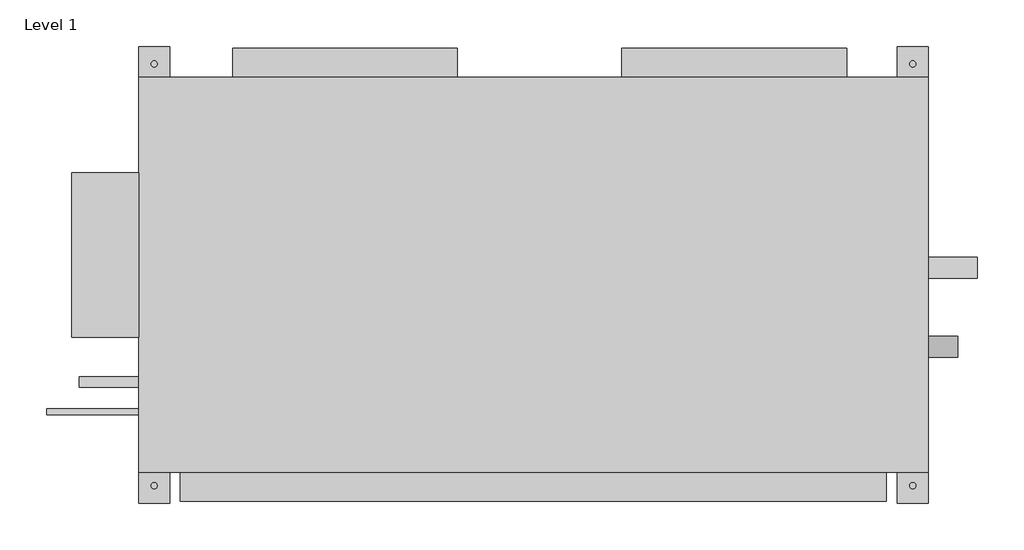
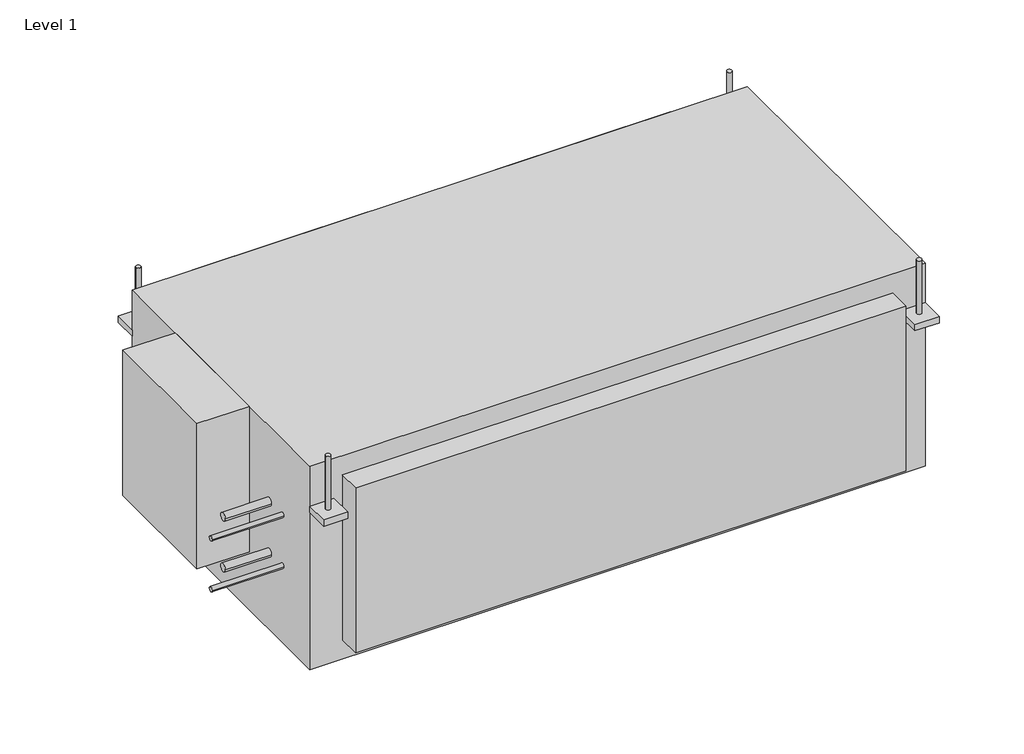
# One storey: 1 proxy.
"""IFC4 building model written with IfcOpenShell, lengths in millimetres."""

import ifcopenshell
import ifcopenshell.guid

model = None  # the IFC model being written
_history = None  # IfcOwnerHistory: only IFC2X3 demands one
_inside = {}  # id of a spatial element -> (the spatial element, [elements in it])
_under = {}  # id of a project, library or spatial element -> (it, [spatial elements below it])
_declared = {}  # id of a project -> (the project, [libraries it declares])
_typed = {}  # id of a type object -> (the type object, [elements of that type])
_made_of = {}  # id of a material, layer set ... -> (it, [elements and type objects made of it])


def new_model(schema):
    """Start an empty IFC model of exactly this schema.

    Asked for "IFC4X3", IfcOpenShell would pick the latest addendum, in which some entities
    have other attributes; the version numbers below select the first issue.
    IFC2X3 requires an IfcOwnerHistory on every rooted entity: one is made here for all.
    """
    global model, _history
    if schema == "IFC4X3":
        model = ifcopenshell.file(schema_version=(4, 3, 0, 0))
    else:
        model = ifcopenshell.file(schema=schema)
    _inside.clear()
    _under.clear()
    _declared.clear()
    _typed.clear()
    _made_of.clear()
    _history = None
    if model.schema == "IFC2X3":
        org = make("IfcOrganization", Name="unknown")
        user = make(
            "IfcPersonAndOrganization",
            ThePerson=make("IfcPerson", FamilyName="unknown"),
            TheOrganization=org,
        )
        app = make(
            "IfcApplication",
            ApplicationDeveloper=org,
            Version="unknown",
            ApplicationFullName="unknown",
            ApplicationIdentifier="unknown",
        )
        _history = make(
            "IfcOwnerHistory",
            OwningUser=user,
            OwningApplication=app,
            ChangeAction="ADDED",
            CreationDate=0,
        )
    return model


def make(cls, **values):
    """One entity of the class cls with the attributes given. An attribute that is None is left unset."""
    return model.create_entity(
        cls, **{name: value for name, value in values.items() if value is not None}
    )


def rooted(cls, **values):
    """An entity with a GlobalId (a new one), such as an element, a storey or a relation."""
    return make(cls, GlobalId=ifcopenshell.guid.new(), OwnerHistory=_history, **values)


def si_unit(unit_type, name, prefix=None):
    """IfcSIUnit, for example si_unit("LENGTHUNIT", "METRE", prefix="MILLI")."""
    return make("IfcSIUnit", UnitType=unit_type, Prefix=prefix, Name=name)


def assignment(units):
    """IfcUnitAssignment: the units of a project."""
    return None if units is None else make("IfcUnitAssignment", Units=units)


def point(xyz):
    """IfcCartesianPoint."""
    return None if xyz is None else make("IfcCartesianPoint", Coordinates=xyz)


def direction(xyz):
    """IfcDirection."""
    return None if xyz is None else make("IfcDirection", DirectionRatios=xyz)


def frame(location, z_axis=None, x_axis=None):
    """IfcAxis2Placement3D, a coordinate frame: its origin and axes. An axis left out is left unset."""
    return make(
        "IfcAxis2Placement3D",
        Location=point(location),
        Axis=direction(z_axis),
        RefDirection=direction(x_axis),
    )


def frame_2d(location, x_axis=None):
    """IfcAxis2Placement2D, a coordinate frame in the plane: its origin and x axis."""
    return make(
        "IfcAxis2Placement2D", Location=point(location), RefDirection=direction(x_axis)
    )


def origin():
    """The frame at (0, 0, 0) with its axes left unset."""
    return frame((0.0, 0.0, 0.0))


def origin_with_axes():
    """The frame at (0, 0, 0) with the z axis (0, 0, 1) and the x axis (1, 0, 0) written out."""
    return frame((0.0, 0.0, 0.0), z_axis=(0.0, 0.0, 1.0), x_axis=(1.0, 0.0, 0.0))


def place(relative_to, where):
    """IfcLocalPlacement: puts the frame where relative to a parent placement (None: the world)."""
    return make(
        "IfcLocalPlacement", PlacementRelTo=relative_to, RelativePlacement=where
    )


def context(
    kind, dimensions, precision=None, world=None, true_north=None, identifier=None
):
    """IfcGeometricRepresentationContext, for example the 3D "Model" context."""
    return make(
        "IfcGeometricRepresentationContext",
        ContextIdentifier=identifier,
        ContextType=kind,
        CoordinateSpaceDimension=dimensions,
        Precision=precision,
        WorldCoordinateSystem=world,
        TrueNorth=true_north,
    )


def project(units=None, contexts=None):
    """IfcProject with its units and contexts."""
    return rooted(
        "IfcProject",
        Name="project",
        RepresentationContexts=contexts,
        UnitsInContext=assignment(units),
    )


def spatial(cls, under=None, at=None, **own):
    """A site, building, storey or space (cls), placed at a placement, below another one or the project."""
    s = rooted(cls, ObjectPlacement=at, **own)
    if under is not None:
        _under.setdefault(under.id(), (under, []))[1].append(s)
    return s


def polyline(points):
    """IfcPolyline through the points."""
    return make("IfcPolyline", Points=[point(p) for p in points])


def circle_curve(where, radius):
    """IfcCircle in the frame where."""
    return make("IfcCircle", Position=where, Radius=radius)


def trimmed(basis, trim1, trim2, sense, master):
    """IfcTrimmedCurve: the piece of a basis curve between two trims."""
    return make(
        "IfcTrimmedCurve",
        BasisCurve=basis,
        Trim1=trim1,
        Trim2=trim2,
        SenseAgreement=sense,
        MasterRepresentation=master,
    )


def segment(curve, same_sense, transition):
    """IfcCompositeCurveSegment."""
    return make(
        "IfcCompositeCurveSegment",
        Transition=transition,
        SameSense=same_sense,
        ParentCurve=curve,
    )


def composite_curve(segments, self_intersect=None):
    """IfcCompositeCurve: segments joined end to end."""
    return make("IfcCompositeCurve", Segments=segments, SelfIntersect=self_intersect)


def outline(outer, holes=None, kind="AREA"):
    """IfcArbitraryClosedProfileDef: a profile drawn as a closed curve; with holes, ...WithVoids."""
    if holes is None:
        return make("IfcArbitraryClosedProfileDef", ProfileType=kind, OuterCurve=outer)
    return make(
        "IfcArbitraryProfileDefWithVoids",
        ProfileType=kind,
        OuterCurve=outer,
        InnerCurves=holes,
    )


def extrude(swept, where, along, depth):
    """IfcExtrudedAreaSolid: the profile swept, set in the frame where, extruded along a direction by depth."""
    return make(
        "IfcExtrudedAreaSolid",
        SweptArea=swept,
        Position=where,
        ExtrudedDirection=direction(along),
        Depth=depth,
    )


def shape(context_of_items, identifier, shape_type, items):
    """IfcShapeRepresentation: the items that make up one representation, for example the "Body"."""
    return make(
        "IfcShapeRepresentation",
        ContextOfItems=context_of_items,
        RepresentationIdentifier=identifier,
        RepresentationType=shape_type,
        Items=items,
    )


def source(mapping_origin, context_of_items, identifier, shape_type, items):
    """IfcRepresentationMap: a shape defined once, which mapped items show again and again."""
    return make(
        "IfcRepresentationMap",
        MappingOrigin=mapping_origin,
        MappedRepresentation=shape(context_of_items, identifier, shape_type, items),
    )


def transform(
    local_origin,
    x_axis=None,
    y_axis=None,
    z_axis=None,
    scale=None,
    scale2=None,
    scale3=None,
    uniform=True,
):
    """IfcCartesianTransformationOperator3D, or its non-uniform kind. x_axis, y_axis, z_axis: its Axis1, 2, 3."""
    if uniform:
        return make(
            "IfcCartesianTransformationOperator3D",
            Axis1=direction(x_axis),
            Axis2=direction(y_axis),
            LocalOrigin=point(local_origin),
            Scale=scale,
            Axis3=direction(z_axis),
        )
    return make(
        "IfcCartesianTransformationOperator3DnonUniform",
        Axis1=direction(x_axis),
        Axis2=direction(y_axis),
        LocalOrigin=point(local_origin),
        Scale=scale,
        Axis3=direction(z_axis),
        Scale2=scale2,
        Scale3=scale3,
    )


def mapped(mapping_source, mapping_target):
    """IfcMappedItem: shows the shape of a source again, moved by a transform."""
    return make(
        "IfcMappedItem", MappingSource=mapping_source, MappingTarget=mapping_target
    )


def made_of(thing, what):
    """Note that an element or type object is made of a material, layer set ...; save() writes the relation."""
    if what is not None:
        _made_of.setdefault(what.id(), (what, []))[1].append(thing)
    return thing


def element(
    cls,
    number,
    at=None,
    inside=None,
    cuts=None,
    type_object=None,
    material=None,
    context=None,
    identifier="Body",
    shape_type=None,
    held_by="IfcProductDefinitionShape",
    body=None,
    shapes=None,
    **own,
):
    """One element of the class cls, such as IfcWall. Its Tag is "e" and its number.

    at: its placement. inside: the storey or other place that contains it. cuts: it is an
    opening in that element (IfcRelVoidsElement). A single representation is given by context,
    identifier, shape_type and body (its items); several are given by shapes. held_by: the class
    of the entity that holds the representations. save() writes the other relations.
    """
    e = rooted(cls, Tag="e%d" % number, ObjectPlacement=at, **own)
    if body is not None:
        shapes = [shape(context, identifier, shape_type, body)]
    if shapes is not None:
        e.Representation = make(held_by, Representations=shapes)
    if inside is not None:
        _inside.setdefault(inside.id(), (inside, []))[1].append(e)
    if cuts is not None:
        rooted(
            "IfcRelVoidsElement", RelatingBuildingElement=cuts, RelatedOpeningElement=e
        )
    if type_object is not None:
        _typed.setdefault(type_object.id(), (type_object, []))[1].append(e)
    return made_of(e, material)


def aggregate(whole, parts):
    """IfcRelAggregates: a whole, such as a stair, and the parts it consists of."""
    return rooted("IfcRelAggregates", RelatingObject=whole, RelatedObjects=parts)


def save(model, path):
    """Write the relations noted so far, then the file.

    IfcRelAggregates (storeys below a building ...), IfcRelContainedInSpatialStructure (elements
    in a storey), IfcRelDefinesByType, IfcRelAssociatesMaterial and IfcRelDeclares: one each for
    every whole, place, type object, material and project.
    """
    for whole, parts in _under.values():
        aggregate(whole, parts)
    for where, things in _inside.values():
        rooted(
            "IfcRelContainedInSpatialStructure",
            RelatedElements=things,
            RelatingStructure=where,
        )
    for kind, things in _typed.values():
        rooted("IfcRelDefinesByType", RelatedObjects=things, RelatingType=kind)
    for what, things in _made_of.values():
        rooted("IfcRelAssociatesMaterial", RelatedObjects=things, RelatingMaterial=what)
    for by, libraries in _declared.values():
        rooted("IfcRelDeclares", RelatingContext=by, RelatedDefinitions=libraries)
    model.write(path)


def plane_surface(at):
    """IfcPlane: the flat surface through the origin of the frame at, square to its z axis."""
    return make("IfcPlane", Position=at)


def cylinder_surface(at, radius):
    """IfcCylindricalSurface: all points at the distance radius from the z axis of the frame at."""
    return make("IfcCylindricalSurface", Position=at, Radius=radius)


def advanced_brep(points, edges, surfaces, faces):
    """IfcAdvancedBrep: a solid bounded by faces that lie on surfaces and meet in shared edges.

    An edge is (start, end): straight between two places in points (the first is 0);
    or (start, end, curve); or (start, end, curve, False) where it runs against its curve.
    A face is (place in surfaces, loops), or (place, loops, False) where it looks against
    its surface's normal. A loop lists edges by number (the first is 1), with a minus sign
    where the edge is run from its end to its start. The first loop is the outer one.
    """
    corners = [point(p) for p in points]
    vertices = [make("IfcVertexPoint", VertexGeometry=c) for c in corners]
    made = []
    for start, end, *more in edges:
        made.append(
            make(
                "IfcEdgeCurve",
                EdgeStart=vertices[start],
                EdgeEnd=vertices[end],
                EdgeGeometry=more[0] if more else make("IfcPolyline", Points=[corners[start], corners[end]]),
                SameSense=more[1] if len(more) > 1 else True,
            )
        )
    hull = []
    for where, loops, *sense in faces:
        bounds = []
        for j, loop in enumerate(loops):
            ring = [make("IfcOrientedEdge", EdgeElement=made[abs(k) - 1], Orientation=k > 0) for k in loop]
            bounds.append(
                make(
                    "IfcFaceOuterBound" if j == 0 else "IfcFaceBound",
                    Bound=make("IfcEdgeLoop", EdgeList=ring),
                    Orientation=True,
                )
            )
        hull.append(make("IfcAdvancedFace", Bounds=bounds, FaceSurface=surfaces[where], SameSense=sense[0] if sense else True))
    return make("IfcAdvancedBrep", Outer=make("IfcClosedShell", CfsFaces=hull))


def proxy_48000_btu_h_a64f102a(model_context):
    return source(origin(), model_context, "Body", "SolidModel", [
        advanced_brep(
        [(696.0, -124.875, 44.0), (696.0, -93.125, 44.0), (696.0, -109.0, 44.0), (651.0, -124.875, 44.0), (651.0, -93.125, 44.0), (651.0, -109.0, 44.0)],
        [
            (0, 1, circle_curve(frame((696.0, -109.0, 44.0), z_axis=(1.0, 0.0, 0.0), x_axis=(0.0, 1.0, 0.0)), 15.875)),
            (1, 2),
            (2, 0),
            (1, 0, circle_curve(frame((696.0, -109.0, 44.0), z_axis=(1.0, 0.0, 0.0), x_axis=(0.0, 1.0, 0.0)), 15.875)),
            (3, 4, circle_curve(frame((651.0, -109.0, 44.0), z_axis=(1.0, 0.0, 0.0), x_axis=(0.0, 1.0, 0.0)), 15.875)),
            (4, 1),
            (0, 3),
            (4, 3, circle_curve(frame((651.0, -109.0, 44.0), z_axis=(1.0, 0.0, 0.0), x_axis=(0.0, 1.0, 0.0)), 15.875)),
            (5, 4),
            (3, 5),
        ],
        [
            plane_surface(frame((696.0, -109.0, 44.0), z_axis=(1.0, 0.0, 0.0), x_axis=(0.0, 1.0, 0.0))),
            cylinder_surface(frame((651.0, -109.0, 44.0), z_axis=(-1.0, 0.0, 0.0), x_axis=(0.0, 1.0, 0.0)), 15.875),
            plane_surface(frame((651.0, -109.0, 44.0), z_axis=(-1.0, 0.0, 0.0), x_axis=(0.0, 1.0, 0.0))),
        ],
        [
            (0, [[1, 2, 3]]),
            (0, [[4, -3, -2]]),
            (1, [[5, 6, -1, 7]]),
            (1, [[8, -7, -4, -6]]),
            (2, [[9, -5, 10]]),
            (2, [[-10, -8, -9]]),
        ],
    ),
        advanced_brep(
        [(651.0, 26.875, 25.0), (651.0, -4.875, 25.0), (651.0, 11.0, 25.0), (726.0, 26.875, 25.0), (726.0, -4.875, 25.0), (726.0, 11.0, 25.0)],
        [
            (0, 1, circle_curve(frame((651.0, 11.0, 25.0), z_axis=(-1.0, 0.0, 0.0), x_axis=(0.0, -1.0, 0.0)), 15.875)),
            (1, 2),
            (2, 0),
            (1, 0, circle_curve(frame((651.0, 11.0, 25.0), z_axis=(-1.0, 0.0, 0.0), x_axis=(0.0, -1.0, 0.0)), 15.875)),
            (3, 4, circle_curve(frame((726.0, 11.0, 25.0), z_axis=(-1.0, 0.0, 0.0), x_axis=(0.0, -1.0, 0.0)), 15.875)),
            (4, 1),
            (0, 3),
            (4, 3, circle_curve(frame((726.0, 11.0, 25.0), z_axis=(-1.0, 0.0, 0.0), x_axis=(0.0, -1.0, 0.0)), 15.875)),
            (5, 4),
            (3, 5),
        ],
        [
            plane_surface(frame((651.0, 11.0, 25.0), z_axis=(-1.0, 0.0, 0.0), x_axis=(0.0, -1.0, 0.0))),
            cylinder_surface(frame((1602.890044, 11.0, 25.0), z_axis=(1.0, 0.0, 0.0), x_axis=(0.0, -1.0, 0.0)), 15.875),
            plane_surface(frame((726.0, 11.0, 25.0), z_axis=(1.0, 0.0, 0.0), x_axis=(0.0, -1.0, 0.0))),
        ],
        [
            (0, [[1, 2, 3]]),
            (0, [[4, -3, -2]]),
            (1, [[5, 6, -1, 7]]),
            (1, [[8, -7, -4, -6]]),
            (2, [[9, -5, 10]]),
            (2, [[-10, -8, -9]]),
        ],
    ),
        extrude(outline(composite_curve([segment(trimmed(circle_curve(frame_2d((-163.0, 159.0)), 7.9375), [point((-170.9375, 159.0))], [point((-155.0625, 159.0))], False, "CARTESIAN"), True, "CONTINUOUS"), segment(trimmed(circle_curve(frame_2d((-163.0, 159.0)), 7.9375), [point((-155.0625, 159.0))], [point((-170.9375, 159.0))], False, "CARTESIAN"), True, "CONTINUOUS")], self_intersect=False)), frame((-639.0, 0.0, 0.0), z_axis=(1.0, 0.0, 0.0), x_axis=(0.0, 1.0, 0.0)), (0.0, 0.0, 1.0), 90.0),
        extrude(outline(composite_curve([segment(trimmed(circle_curve(frame_2d((-208.0, 159.0)), 4.7625), [point((-212.7625, 159.0))], [point((-203.2375, 159.0))], False, "CARTESIAN"), True, "CONTINUOUS"), segment(trimmed(circle_curve(frame_2d((-208.0, 159.0)), 4.7625), [point((-203.2375, 159.0))], [point((-212.7625, 159.0))], False, "CARTESIAN"), True, "CONTINUOUS")], self_intersect=False)), frame((-689.0, 0.0, 0.0), z_axis=(1.0, 0.0, 0.0), x_axis=(0.0, 1.0, 0.0)), (0.0, 0.0, 1.0), 140.0),
        extrude(outline(polyline([(651.0, 347.0), (651.0, 300.0), (604.0, 300.0), (604.0, 347.0), (651.0, 347.0)]), holes=[composite_curve([segment(trimmed(circle_curve(frame_2d((627.5, 320.5)), 4.7625), [point((622.7375, 320.5))], [point((632.2625, 320.5))], True, "CARTESIAN"), True, "CONTINUOUS"), segment(trimmed(circle_curve(frame_2d((627.5, 320.5)), 4.7625), [point((632.2625, 320.5))], [point((622.7375, 320.5))], True, "CARTESIAN"), True, "CONTINUOUS")], self_intersect=False)]), frame((0.0, 0.0, 324.0), z_axis=(0.0, 0.0, 1.0), x_axis=(1.0, 0.0, 0.0)), (0.0, 0.0, 1.0), 13.0),
        extrude(outline(polyline([(-502.0, 347.0), (-502.0, 300.0), (-549.0, 300.0), (-549.0, 347.0), (-502.0, 347.0)]), holes=[composite_curve([segment(trimmed(circle_curve(frame_2d((-525.5, 320.5)), 4.7625), [point((-530.2625, 320.5))], [point((-520.7375, 320.5))], True, "CARTESIAN"), True, "CONTINUOUS"), segment(trimmed(circle_curve(frame_2d((-525.5, 320.5)), 4.7625), [point((-520.7375, 320.5))], [point((-530.2625, 320.5))], True, "CARTESIAN"), True, "CONTINUOUS")], self_intersect=False)]), frame((0.0, 0.0, 324.0), z_axis=(0.0, 0.0, 1.0), x_axis=(1.0, 0.0, 0.0)), (0.0, 0.0, 1.0), 13.0),
        extrude(outline(polyline([(-502.0, -300.0), (-502.0, -347.0), (-549.0, -347.0), (-549.0, -300.0), (-502.0, -300.0)]), holes=[composite_curve([segment(trimmed(circle_curve(frame_2d((-525.5, -320.5)), 4.7625), [point((-530.2625, -320.5))], [point((-520.7375, -320.5))], True, "CARTESIAN"), True, "CONTINUOUS"), segment(trimmed(circle_curve(frame_2d((-525.5, -320.5)), 4.7625), [point((-520.7375, -320.5))], [point((-530.2625, -320.5))], True, "CARTESIAN"), True, "CONTINUOUS")], self_intersect=False)]), frame((0.0, 0.0, 324.0), z_axis=(0.0, 0.0, 1.0), x_axis=(1.0, 0.0, 0.0)), (0.0, 0.0, 1.0), 13.0),
        extrude(outline(polyline([(651.0, -300.0), (651.0, -347.0), (604.0, -347.0), (604.0, -300.0), (651.0, -300.0)]), holes=[composite_curve([segment(trimmed(circle_curve(frame_2d((627.5, -320.5)), 4.7625), [point((622.7375, -320.5))], [point((632.2625, -320.5))], True, "CARTESIAN"), True, "CONTINUOUS"), segment(trimmed(circle_curve(frame_2d((627.5, -320.5)), 4.7625), [point((632.2625, -320.5))], [point((622.7375, -320.5))], True, "CARTESIAN"), True, "CONTINUOUS")], self_intersect=False)]), frame((0.0, 0.0, 324.0), z_axis=(0.0, 0.0, 1.0), x_axis=(1.0, 0.0, 0.0)), (0.0, 0.0, 1.0), 13.0),
        extrude(outline(composite_curve([segment(trimmed(circle_curve(frame_2d((627.5, 320.5)), 4.7625), [point((622.7375, 320.5))], [point((632.2625, 320.5))], False, "CARTESIAN"), True, "CONTINUOUS"), segment(trimmed(circle_curve(frame_2d((627.5, 320.5)), 4.7625), [point((632.2625, 320.5))], [point((622.7375, 320.5))], False, "CARTESIAN"), True, "CONTINUOUS")], self_intersect=False)), frame((0.0, 0.0, 319.0), z_axis=(0.0, 0.0, 1.0), x_axis=(1.0, 0.0, 0.0)), (0.0, 0.0, 1.0), 128.0),
        extrude(outline(composite_curve([segment(trimmed(circle_curve(frame_2d((627.5, -320.5)), 4.7625), [point((622.7375, -320.5))], [point((632.2625, -320.5))], False, "CARTESIAN"), True, "CONTINUOUS"), segment(trimmed(circle_curve(frame_2d((627.5, -320.5)), 4.7625), [point((632.2625, -320.5))], [point((622.7375, -320.5))], False, "CARTESIAN"), True, "CONTINUOUS")], self_intersect=False)), frame((0.0, 0.0, 319.0), z_axis=(0.0, 0.0, 1.0), x_axis=(1.0, 0.0, 0.0)), (0.0, 0.0, 1.0), 128.0),
        extrude(outline(composite_curve([segment(trimmed(circle_curve(frame_2d((-525.5, 320.5)), 4.7625), [point((-530.2625, 320.5))], [point((-520.7375, 320.5))], False, "CARTESIAN"), True, "CONTINUOUS"), segment(trimmed(circle_curve(frame_2d((-525.5, 320.5)), 4.7625), [point((-520.7375, 320.5))], [point((-530.2625, 320.5))], False, "CARTESIAN"), True, "CONTINUOUS")], self_intersect=False)), frame((0.0, 0.0, 319.0), z_axis=(0.0, 0.0, 1.0), x_axis=(1.0, 0.0, 0.0)), (0.0, 0.0, 1.0), 128.0),
        extrude(outline(composite_curve([segment(trimmed(circle_curve(frame_2d((-525.5, -320.5)), 4.7625), [point((-530.2625, -320.5))], [point((-520.7375, -320.5))], False, "CARTESIAN"), True, "CONTINUOUS"), segment(trimmed(circle_curve(frame_2d((-525.5, -320.5)), 4.7625), [point((-520.7375, -320.5))], [point((-530.2625, -320.5))], False, "CARTESIAN"), True, "CONTINUOUS")], self_intersect=False)), frame((0.0, 0.0, 319.0), z_axis=(0.0, 0.0, 1.0), x_axis=(1.0, 0.0, 0.0)), (0.0, 0.0, 1.0), 128.0),
        extrude(outline(polyline([(-549.0, 155.0), (-549.0, -95.0), (-651.0, -95.0), (-651.0, 155.0), (-549.0, 155.0)])), frame((0.0, 0.0, 119.0), z_axis=(0.0, 0.0, 1.0), x_axis=(1.0, 0.0, 0.0)), (0.0, 0.0, 1.0), 300.0),
        extrude(outline(composite_curve([segment(trimmed(circle_curve(frame_2d((-163.0, 264.0)), 7.9375), [point((-170.9375, 264.0))], [point((-155.0625, 264.0))], False, "CARTESIAN"), True, "CONTINUOUS"), segment(trimmed(circle_curve(frame_2d((-163.0, 264.0)), 7.9375), [point((-155.0625, 264.0))], [point((-170.9375, 264.0))], False, "CARTESIAN"), True, "CONTINUOUS")], self_intersect=False)), frame((-639.0, 0.0, 0.0), z_axis=(1.0, 0.0, 0.0), x_axis=(0.0, 1.0, 0.0)), (0.0, 0.0, 1.0), 90.0),
        extrude(outline(composite_curve([segment(trimmed(circle_curve(frame_2d((-208.0, 264.0)), 4.7625), [point((-212.7625, 264.0))], [point((-203.2375, 264.0))], False, "CARTESIAN"), True, "CONTINUOUS"), segment(trimmed(circle_curve(frame_2d((-208.0, 264.0)), 4.7625), [point((-203.2375, 264.0))], [point((-212.7625, 264.0))], False, "CARTESIAN"), True, "CONTINUOUS")], self_intersect=False)), frame((-689.0, 0.0, 0.0), z_axis=(1.0, 0.0, 0.0), x_axis=(0.0, 1.0, 0.0)), (0.0, 0.0, 1.0), 140.0),
        extrude(outline(polyline([(587.5, -300.0), (587.5, -344.5), (-485.5, -344.5), (-485.5, -300.0), (587.5, -300.0)])), frame((0.0, 0.0, 39.5), z_axis=(0.0, 0.0, 1.0), x_axis=(1.0, 0.0, 0.0)), (0.0, 0.0, 1.0), 340.0),
        extrude(outline(polyline([(-64.5, 344.5), (-64.5, 300.0), (-406.0, 300.0), (-406.0, 344.5), (-64.5, 344.5)])), frame((0.0, 0.0, 133.0), z_axis=(0.0, 0.0, 1.0), x_axis=(1.0, 0.0, 0.0)), (0.0, 0.0, 1.0), 251.0),
        extrude(outline(polyline([(527.0, 344.5), (527.0, 300.0), (185.5, 300.0), (185.5, 344.5), (527.0, 344.5)])), frame((0.0, 0.0, 133.0), z_axis=(0.0, 0.0, 1.0), x_axis=(1.0, 0.0, 0.0)), (0.0, 0.0, 1.0), 251.0),
        extrude(outline(polyline([(651.0, 300.0), (651.0, -300.0), (-549.0, -300.0), (-549.0, 300.0), (651.0, 300.0)])), origin_with_axes(), (0.0, 0.0, 1.0), 419.0),
    ])


model = new_model("IFC4")

# Units and contexts
model_context = context("Model", 3, world=origin())
ifc_project = project(units=[si_unit("LENGTHUNIT", "METRE", prefix="MILLI")], contexts=[model_context])

# Site, building, storey
site = spatial("IfcSite", under=ifc_project)
building = spatial("IfcBuilding", under=site)
storey = spatial("IfcBuildingStorey", under=building, Name="Level 1", Elevation=0.0)

# Proxy
placement = place(None, origin())
proxy_48000_btu_h_shape = proxy_48000_btu_h_a64f102a(model_context)
element("IfcBuildingElementProxy", 1, Name="Lennox-VRF-48,54_Btu-High_Static_Ducted-VHIA-2P_Series : 48000 Btu/h", ObjectType="Lennox-VRF-48,54_Btu-High_Static_Ducted-VHIA-2P_Series : 48000 Btu/h", at=placement, inside=storey, context=model_context, shape_type="MappedRepresentation", body=[
    mapped(proxy_48000_btu_h_shape, transform((7791.9650173, 1909.2559502, 0.0), x_axis=(1.0, 0.0, 0.0), y_axis=(0.0, 1.0, 0.0), z_axis=(0.0, 0.0, 1.0))),
])

save(model, "model.ifc")
